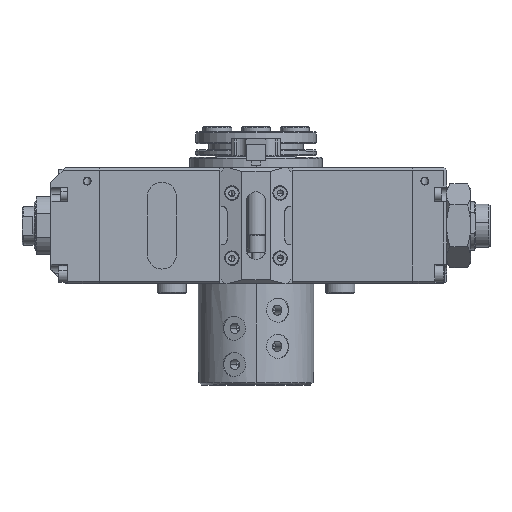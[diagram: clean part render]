
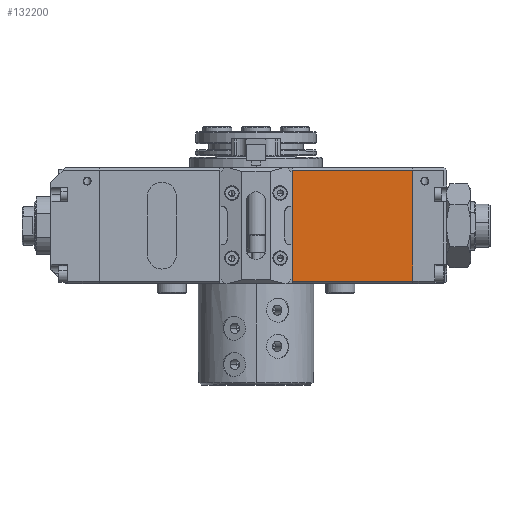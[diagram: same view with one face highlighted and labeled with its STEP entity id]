
A CAD part, top view. The second image highlights one B-rep face of the part: STEP entity #132200.
In plain terms, the highlighted planar face has unit normal (0, 0, 1).
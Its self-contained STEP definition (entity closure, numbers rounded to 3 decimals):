
#1990 = DIRECTION ( 'NONE',  ( 0., 0., 1. ) ) ;
#3396 = EDGE_CURVE ( 'NONE', #111749, #38223, #121511, .T. ) ;
#4123 = AXIS2_PLACEMENT_3D ( 'NONE', #64749, #1990, #75304 ) ;
#9343 = EDGE_LOOP ( 'NONE', ( #101257, #119198, #35660, #45970 ) ) ;
#23787 = CARTESIAN_POINT ( 'NONE',  ( -65., 23., 45. ) ) ;
#26336 = LINE ( 'NONE', #109007, #50917 ) ;
#26776 = LINE ( 'NONE', #125197, #51353 ) ;
#35660 = ORIENTED_EDGE ( 'NONE', *, *, #77259, .F. ) ;
#38223 = VERTEX_POINT ( 'NONE', #94699 ) ;
#41412 = FACE_OUTER_BOUND ( 'NONE', #9343, .T. ) ;
#41603 = CARTESIAN_POINT ( 'NONE',  ( 65., 23., 45. ) ) ;
#42897 = EDGE_CURVE ( 'NONE', #135172, #120183, #102846, .T. ) ;
#44853 = DIRECTION ( 'NONE',  ( -1., 0., 0. ) ) ;
#45970 = ORIENTED_EDGE ( 'NONE', *, *, #3396, .T. ) ;
#46336 = DIRECTION ( 'NONE',  ( 0., -1., 0. ) ) ;
#50917 = VECTOR ( 'NONE', #46336, 1000. ) ;
#51353 = VECTOR ( 'NONE', #104661, 1000. ) ;
#64749 = CARTESIAN_POINT ( 'NONE',  ( -65., -24., 45. ) ) ;
#74390 = PLANE ( 'NONE',  #4123 ) ;
#75304 = DIRECTION ( 'NONE',  ( 0., -1., 0. ) ) ;
#77259 = EDGE_CURVE ( 'NONE', #111749, #120183, #26336, .T. ) ;
#79361 = CARTESIAN_POINT ( 'NONE',  ( -65., -23., 45. ) ) ;
#93724 = VECTOR ( 'NONE', #44853, 1000. ) ;
#94699 = CARTESIAN_POINT ( 'NONE',  ( 15., 23., 45. ) ) ;
#99147 = EDGE_CURVE ( 'NONE', #135172, #38223, #26776, .T. ) ;
#101257 = ORIENTED_EDGE ( 'NONE', *, *, #99147, .F. ) ;
#102846 = LINE ( 'NONE', #79361, #127278 ) ;
#104661 = DIRECTION ( 'NONE',  ( 0., 1., 0. ) ) ;
#108872 = CARTESIAN_POINT ( 'NONE',  ( 15., -23., 45. ) ) ;
#109007 = CARTESIAN_POINT ( 'NONE',  ( 65., -24., 45. ) ) ;
#111749 = VERTEX_POINT ( 'NONE', #41603 ) ;
#119198 = ORIENTED_EDGE ( 'NONE', *, *, #42897, .T. ) ;
#120183 = VERTEX_POINT ( 'NONE', #121689 ) ;
#121511 = LINE ( 'NONE', #23787, #93724 ) ;
#121689 = CARTESIAN_POINT ( 'NONE',  ( 65., -23., 45. ) ) ;
#125197 = CARTESIAN_POINT ( 'NONE',  ( 15., -24., 45. ) ) ;
#127278 = VECTOR ( 'NONE', #131389, 1000. ) ;
#131389 = DIRECTION ( 'NONE',  ( 1., 0., 0. ) ) ;
#132200 = ADVANCED_FACE ( 'NONE', ( #41412 ), #74390, .T. ) ;
#135172 = VERTEX_POINT ( 'NONE', #108872 ) ;
